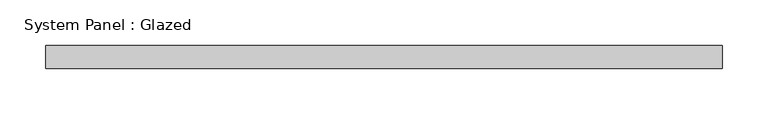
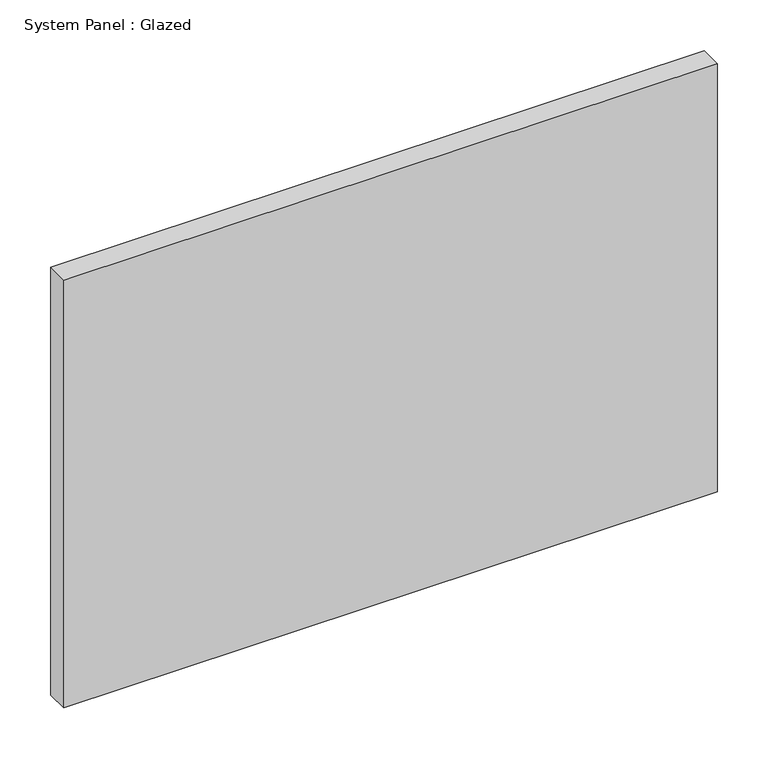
"""IFC4 building model written with IfcOpenShell, lengths in millimetres: plate geometry, System Panel : Glazed."""

import ifcopenshell
import ifcopenshell.guid

model = None  # the IFC model being written
_history = None  # IfcOwnerHistory: only IFC2X3 demands one
_inside = {}  # id of a spatial element -> (the spatial element, [elements in it])
_under = {}  # id of a project, library or spatial element -> (it, [spatial elements below it])
_declared = {}  # id of a project -> (the project, [libraries it declares])
_typed = {}  # id of a type object -> (the type object, [elements of that type])
_made_of = {}  # id of a material, layer set ... -> (it, [elements and type objects made of it])


def new_model(schema):
    """Start an empty IFC model of exactly this schema.

    Asked for "IFC4X3", IfcOpenShell would pick the latest addendum, in which some entities
    have other attributes; the version numbers below select the first issue.
    IFC2X3 requires an IfcOwnerHistory on every rooted entity: one is made here for all.
    """
    global model, _history
    if schema == "IFC4X3":
        model = ifcopenshell.file(schema_version=(4, 3, 0, 0))
    else:
        model = ifcopenshell.file(schema=schema)
    _inside.clear()
    _under.clear()
    _declared.clear()
    _typed.clear()
    _made_of.clear()
    _history = None
    if model.schema == "IFC2X3":
        org = make("IfcOrganization", Name="unknown")
        user = make(
            "IfcPersonAndOrganization",
            ThePerson=make("IfcPerson", FamilyName="unknown"),
            TheOrganization=org,
        )
        app = make(
            "IfcApplication",
            ApplicationDeveloper=org,
            Version="unknown",
            ApplicationFullName="unknown",
            ApplicationIdentifier="unknown",
        )
        _history = make(
            "IfcOwnerHistory",
            OwningUser=user,
            OwningApplication=app,
            ChangeAction="ADDED",
            CreationDate=0,
        )
    return model


def make(cls, **values):
    """One entity of the class cls with the attributes given. An attribute that is None is left unset."""
    return model.create_entity(
        cls, **{name: value for name, value in values.items() if value is not None}
    )


def rooted(cls, **values):
    """An entity with a GlobalId (a new one), such as an element, a storey or a relation."""
    return make(cls, GlobalId=ifcopenshell.guid.new(), OwnerHistory=_history, **values)


def si_unit(unit_type, name, prefix=None):
    """IfcSIUnit, for example si_unit("LENGTHUNIT", "METRE", prefix="MILLI")."""
    return make("IfcSIUnit", UnitType=unit_type, Prefix=prefix, Name=name)


def assignment(units):
    """IfcUnitAssignment: the units of a project."""
    return None if units is None else make("IfcUnitAssignment", Units=units)


def point(xyz):
    """IfcCartesianPoint."""
    return None if xyz is None else make("IfcCartesianPoint", Coordinates=xyz)


def direction(xyz):
    """IfcDirection."""
    return None if xyz is None else make("IfcDirection", DirectionRatios=xyz)


def frame(location, z_axis=None, x_axis=None):
    """IfcAxis2Placement3D, a coordinate frame: its origin and axes. An axis left out is left unset."""
    return make(
        "IfcAxis2Placement3D",
        Location=point(location),
        Axis=direction(z_axis),
        RefDirection=direction(x_axis),
    )


def origin():
    """The frame at (0, 0, 0) with its axes left unset."""
    return frame((0.0, 0.0, 0.0))


def origin_with_axes():
    """The frame at (0, 0, 0) with the z axis (0, 0, 1) and the x axis (1, 0, 0) written out."""
    return frame((0.0, 0.0, 0.0), z_axis=(0.0, 0.0, 1.0), x_axis=(1.0, 0.0, 0.0))


def place(relative_to, where):
    """IfcLocalPlacement: puts the frame where relative to a parent placement (None: the world)."""
    return make(
        "IfcLocalPlacement", PlacementRelTo=relative_to, RelativePlacement=where
    )


def context(
    kind, dimensions, precision=None, world=None, true_north=None, identifier=None
):
    """IfcGeometricRepresentationContext, for example the 3D "Model" context."""
    return make(
        "IfcGeometricRepresentationContext",
        ContextIdentifier=identifier,
        ContextType=kind,
        CoordinateSpaceDimension=dimensions,
        Precision=precision,
        WorldCoordinateSystem=world,
        TrueNorth=true_north,
    )


def project(units=None, contexts=None):
    """IfcProject with its units and contexts."""
    return rooted(
        "IfcProject",
        Name="project",
        RepresentationContexts=contexts,
        UnitsInContext=assignment(units),
    )


def spatial(cls, under=None, at=None, **own):
    """A site, building, storey or space (cls), placed at a placement, below another one or the project."""
    s = rooted(cls, ObjectPlacement=at, **own)
    if under is not None:
        _under.setdefault(under.id(), (under, []))[1].append(s)
    return s


def polyline(points):
    """IfcPolyline through the points."""
    return make("IfcPolyline", Points=[point(p) for p in points])


def outline(outer, holes=None, kind="AREA"):
    """IfcArbitraryClosedProfileDef: a profile drawn as a closed curve; with holes, ...WithVoids."""
    if holes is None:
        return make("IfcArbitraryClosedProfileDef", ProfileType=kind, OuterCurve=outer)
    return make(
        "IfcArbitraryProfileDefWithVoids",
        ProfileType=kind,
        OuterCurve=outer,
        InnerCurves=holes,
    )


def extrude(swept, where, along, depth):
    """IfcExtrudedAreaSolid: the profile swept, set in the frame where, extruded along a direction by depth."""
    return make(
        "IfcExtrudedAreaSolid",
        SweptArea=swept,
        Position=where,
        ExtrudedDirection=direction(along),
        Depth=depth,
    )


def shape(context_of_items, identifier, shape_type, items):
    """IfcShapeRepresentation: the items that make up one representation, for example the "Body"."""
    return make(
        "IfcShapeRepresentation",
        ContextOfItems=context_of_items,
        RepresentationIdentifier=identifier,
        RepresentationType=shape_type,
        Items=items,
    )


def source(mapping_origin, context_of_items, identifier, shape_type, items):
    """IfcRepresentationMap: a shape defined once, which mapped items show again and again."""
    return make(
        "IfcRepresentationMap",
        MappingOrigin=mapping_origin,
        MappedRepresentation=shape(context_of_items, identifier, shape_type, items),
    )


def transform(
    local_origin,
    x_axis=None,
    y_axis=None,
    z_axis=None,
    scale=None,
    scale2=None,
    scale3=None,
    uniform=True,
):
    """IfcCartesianTransformationOperator3D, or its non-uniform kind. x_axis, y_axis, z_axis: its Axis1, 2, 3."""
    if uniform:
        return make(
            "IfcCartesianTransformationOperator3D",
            Axis1=direction(x_axis),
            Axis2=direction(y_axis),
            LocalOrigin=point(local_origin),
            Scale=scale,
            Axis3=direction(z_axis),
        )
    return make(
        "IfcCartesianTransformationOperator3DnonUniform",
        Axis1=direction(x_axis),
        Axis2=direction(y_axis),
        LocalOrigin=point(local_origin),
        Scale=scale,
        Axis3=direction(z_axis),
        Scale2=scale2,
        Scale3=scale3,
    )


def mapped(mapping_source, mapping_target):
    """IfcMappedItem: shows the shape of a source again, moved by a transform."""
    return make(
        "IfcMappedItem", MappingSource=mapping_source, MappingTarget=mapping_target
    )


def made_of(thing, what):
    """Note that an element or type object is made of a material, layer set ...; save() writes the relation."""
    if what is not None:
        _made_of.setdefault(what.id(), (what, []))[1].append(thing)
    return thing


def element(
    cls,
    number,
    at=None,
    inside=None,
    cuts=None,
    type_object=None,
    material=None,
    context=None,
    identifier="Body",
    shape_type=None,
    held_by="IfcProductDefinitionShape",
    body=None,
    shapes=None,
    **own,
):
    """One element of the class cls, such as IfcWall. Its Tag is "e" and its number.

    at: its placement. inside: the storey or other place that contains it. cuts: it is an
    opening in that element (IfcRelVoidsElement). A single representation is given by context,
    identifier, shape_type and body (its items); several are given by shapes. held_by: the class
    of the entity that holds the representations. save() writes the other relations.
    """
    e = rooted(cls, Tag="e%d" % number, ObjectPlacement=at, **own)
    if body is not None:
        shapes = [shape(context, identifier, shape_type, body)]
    if shapes is not None:
        e.Representation = make(held_by, Representations=shapes)
    if inside is not None:
        _inside.setdefault(inside.id(), (inside, []))[1].append(e)
    if cuts is not None:
        rooted(
            "IfcRelVoidsElement", RelatingBuildingElement=cuts, RelatedOpeningElement=e
        )
    if type_object is not None:
        _typed.setdefault(type_object.id(), (type_object, []))[1].append(e)
    return made_of(e, material)


def aggregate(whole, parts):
    """IfcRelAggregates: a whole, such as a stair, and the parts it consists of."""
    return rooted("IfcRelAggregates", RelatingObject=whole, RelatedObjects=parts)


def save(model, path):
    """Write the relations noted so far, then the file.

    IfcRelAggregates (storeys below a building ...), IfcRelContainedInSpatialStructure (elements
    in a storey), IfcRelDefinesByType, IfcRelAssociatesMaterial and IfcRelDeclares: one each for
    every whole, place, type object, material and project.
    """
    for whole, parts in _under.values():
        aggregate(whole, parts)
    for where, things in _inside.values():
        rooted(
            "IfcRelContainedInSpatialStructure",
            RelatedElements=things,
            RelatingStructure=where,
        )
    for kind, things in _typed.values():
        rooted("IfcRelDefinesByType", RelatedObjects=things, RelatingType=kind)
    for what, things in _made_of.values():
        rooted("IfcRelAssociatesMaterial", RelatedObjects=things, RelatingMaterial=what)
    for by, libraries in _declared.values():
        rooted("IfcRelDeclares", RelatingContext=by, RelatedDefinitions=libraries)
    model.write(path)


def system_panel_glazed_bd012a69(model_context):
    return source(origin(), model_context, "Body", "SweptSolid", [
        extrude(outline(polyline([(371.475, 19.05), (-371.475, 19.05), (-371.475, 44.45), (371.475, 44.45), (371.475, 19.05)])), origin_with_axes(), (0.0, 0.0, 1.0), 514.35),
    ])


if __name__ == "__main__":
    model = new_model("IFC4")
    model_context = context("Model", 3, world=origin())
    ifc_project = project(units=[si_unit("LENGTHUNIT", "METRE", prefix="MILLI")], contexts=[model_context])
    site = spatial("IfcSite", under=ifc_project)
    building = spatial("IfcBuilding", under=site)
    placement = place(None, origin())
    system_panel_glazed_shape = system_panel_glazed_bd012a69(model_context)
    element("IfcPlate", 1, ObjectType="System Panel : Glazed", at=placement, inside=building, context=model_context, shape_type="MappedRepresentation", body=[
        mapped(system_panel_glazed_shape, transform((0.0, 0.0, 0.0), x_axis=(1.0, 0.0, 0.0), y_axis=(0.0, 1.0, 0.0), z_axis=(0.0, 0.0, 1.0))),
    ])
    save(model, "model.ifc")
